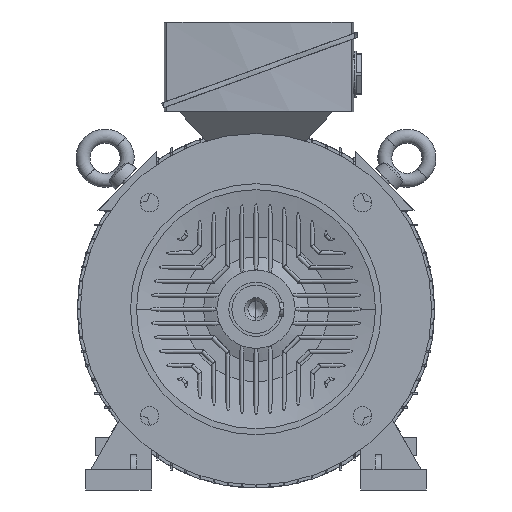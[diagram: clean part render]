
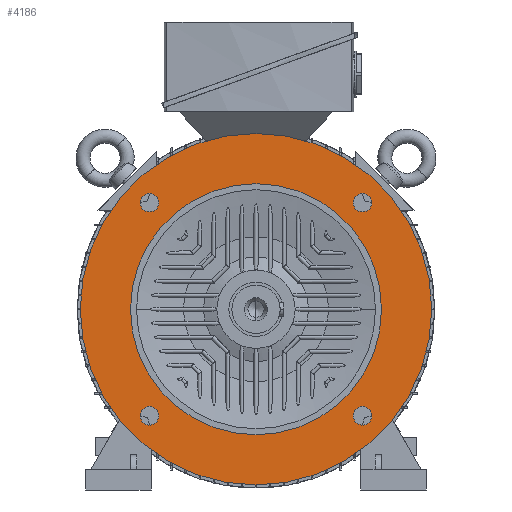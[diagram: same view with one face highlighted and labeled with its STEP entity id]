
A CAD part, left-side view. The second image highlights one B-rep face of the part: STEP entity #4186.
In plain terms, the highlighted planar face has unit normal (-1, 0, 0).
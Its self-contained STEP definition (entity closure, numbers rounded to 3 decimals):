
#4186=ADVANCED_FACE('',(#8448,#8449,#8450,#8451,#8452,#8453),#8454,.T.);
#8448=FACE_BOUND('',#12713,.T.);
#8449=FACE_BOUND('',#12714,.T.);
#8450=FACE_BOUND('',#12715,.T.);
#8451=FACE_BOUND('',#12716,.T.);
#8452=FACE_OUTER_BOUND('',#12717,.T.);
#8453=FACE_BOUND('',#12718,.T.);
#8454=PLANE('',#12719);
#12713=EDGE_LOOP('',(#26011,#26012));
#12714=EDGE_LOOP('',(#26013,#26014));
#12715=EDGE_LOOP('',(#26015,#26016));
#12716=EDGE_LOOP('',(#26017,#26018));
#12717=EDGE_LOOP('',(#26019,#26020));
#12718=EDGE_LOOP('',(#26021,#26022));
#12719=AXIS2_PLACEMENT_3D('',#26023,#26024,#26025);
#26011=ORIENTED_EDGE('',*,*,#31261,.T.);
#26012=ORIENTED_EDGE('',*,*,#26114,.T.);
#26013=ORIENTED_EDGE('',*,*,#31264,.T.);
#26014=ORIENTED_EDGE('',*,*,#26109,.T.);
#26015=ORIENTED_EDGE('',*,*,#31267,.T.);
#26016=ORIENTED_EDGE('',*,*,#26104,.T.);
#26017=ORIENTED_EDGE('',*,*,#31270,.T.);
#26018=ORIENTED_EDGE('',*,*,#26099,.T.);
#26019=ORIENTED_EDGE('',*,*,#26078,.F.);
#26020=ORIENTED_EDGE('',*,*,#31318,.F.);
#26021=ORIENTED_EDGE('',*,*,#26085,.T.);
#26022=ORIENTED_EDGE('',*,*,#31316,.T.);
#26023=CARTESIAN_POINT('',(-78.0,150.0,0.0));
#26024=DIRECTION('',(-1.0,0.0,0.0));
#26025=DIRECTION('',(0.0,-1.0,0.0));
#26078=EDGE_CURVE('',#31364,#31367,#31368,.T.);
#26085=EDGE_CURVE('',#31374,#31378,#31380,.T.);
#26099=EDGE_CURVE('',#31405,#31402,#31406,.T.);
#26104=EDGE_CURVE('',#31414,#31411,#31415,.T.);
#26109=EDGE_CURVE('',#31423,#31420,#31424,.T.);
#26114=EDGE_CURVE('',#31432,#31429,#31433,.T.);
#31261=EDGE_CURVE('',#31429,#31432,#39084,.T.);
#31264=EDGE_CURVE('',#31420,#31423,#39087,.T.);
#31267=EDGE_CURVE('',#31411,#31414,#39090,.T.);
#31270=EDGE_CURVE('',#31402,#31405,#39093,.T.);
#31316=EDGE_CURVE('',#31378,#31374,#39147,.T.);
#31318=EDGE_CURVE('',#31367,#31364,#39149,.T.);
#31364=VERTEX_POINT('',#39381);
#31367=VERTEX_POINT('',#39385);
#31368=CIRCLE('',#39386,175.0);
#31374=VERTEX_POINT('',#39393);
#31378=VERTEX_POINT('',#39398);
#31380=CIRCLE('',#39401,125.0);
#31402=VERTEX_POINT('',#39427);
#31405=VERTEX_POINT('',#39431);
#31406=CIRCLE('',#39432,9.25);
#31411=VERTEX_POINT('',#39438);
#31414=VERTEX_POINT('',#39442);
#31415=CIRCLE('',#39443,9.25);
#31420=VERTEX_POINT('',#39449);
#31423=VERTEX_POINT('',#39453);
#31424=CIRCLE('',#39454,9.25);
#31429=VERTEX_POINT('',#39460);
#31432=VERTEX_POINT('',#39464);
#31433=CIRCLE('',#39465,9.25);
#39084=CIRCLE('',#60367,9.25);
#39087=CIRCLE('',#60370,9.25);
#39090=CIRCLE('',#60373,9.25);
#39093=CIRCLE('',#60376,9.25);
#39147=CIRCLE('',#60450,125.0);
#39149=CIRCLE('',#60452,175.0);
#39381=CARTESIAN_POINT('',(-78.0,175.0,0.0));
#39385=CARTESIAN_POINT('',(-78.0,-175.0,0.));
#39386=AXIS2_PLACEMENT_3D('',#60500,#60501,#60502);
#39393=CARTESIAN_POINT('',(-78.0,125.0,0.0));
#39398=CARTESIAN_POINT('',(-78.0,-125.0,0.));
#39401=AXIS2_PLACEMENT_3D('',#60512,#60513,#60514);
#39427=CARTESIAN_POINT('',(-78.0,-112.607,112.607));
#39431=CARTESIAN_POINT('',(-78.0,-99.525,99.525));
#39432=AXIS2_PLACEMENT_3D('',#60535,#60536,#60537);
#39438=CARTESIAN_POINT('',(-78.0,112.607,112.607));
#39442=CARTESIAN_POINT('',(-78.0,99.525,99.525));
#39443=AXIS2_PLACEMENT_3D('',#60543,#60544,#60545);
#39449=CARTESIAN_POINT('',(-78.0,112.607,-112.607));
#39453=CARTESIAN_POINT('',(-78.0,99.525,-99.525));
#39454=AXIS2_PLACEMENT_3D('',#60551,#60552,#60553);
#39460=CARTESIAN_POINT('',(-78.0,-112.607,-112.607));
#39464=CARTESIAN_POINT('',(-78.0,-99.525,-99.525));
#39465=AXIS2_PLACEMENT_3D('',#60559,#60560,#60561);
#60367=AXIS2_PLACEMENT_3D('',#65811,#65812,#65813);
#60370=AXIS2_PLACEMENT_3D('',#65817,#65818,#65819);
#60373=AXIS2_PLACEMENT_3D('',#65823,#65824,#65825);
#60376=AXIS2_PLACEMENT_3D('',#65829,#65830,#65831);
#60450=AXIS2_PLACEMENT_3D('',#65861,#65862,#65863);
#60452=AXIS2_PLACEMENT_3D('',#65864,#65865,#65866);
#60500=CARTESIAN_POINT('',(-78.0,0.0,0.0));
#60501=DIRECTION('',(1.0,0.0,0.0));
#60502=DIRECTION('',(0.0,1.0,0.0));
#60512=CARTESIAN_POINT('',(-78.0,0.0,0.0));
#60513=DIRECTION('',(1.0,0.0,0.0));
#60514=DIRECTION('',(0.0,1.0,0.0));
#60535=CARTESIAN_POINT('',(-78.0,-106.066,106.066));
#60536=DIRECTION('',(1.0,0.0,-0.0));
#60537=DIRECTION('',(0.0,-0.707,0.707));
#60543=CARTESIAN_POINT('',(-78.0,106.066,106.066));
#60544=DIRECTION('',(1.0,0.0,-0.0));
#60545=DIRECTION('',(0.0,0.707,0.707));
#60551=CARTESIAN_POINT('',(-78.0,106.066,-106.066));
#60552=DIRECTION('',(1.0,-0.0,0.0));
#60553=DIRECTION('',(0.0,0.707,-0.707));
#60559=CARTESIAN_POINT('',(-78.0,-106.066,-106.066));
#60560=DIRECTION('',(1.0,0.0,0.0));
#60561=DIRECTION('',(0.0,-0.707,-0.707));
#65811=CARTESIAN_POINT('',(-78.0,-106.066,-106.066));
#65812=DIRECTION('',(1.0,0.0,0.0));
#65813=DIRECTION('',(0.0,-0.707,-0.707));
#65817=CARTESIAN_POINT('',(-78.0,106.066,-106.066));
#65818=DIRECTION('',(1.0,-0.0,0.0));
#65819=DIRECTION('',(0.0,0.707,-0.707));
#65823=CARTESIAN_POINT('',(-78.0,106.066,106.066));
#65824=DIRECTION('',(1.0,0.0,-0.0));
#65825=DIRECTION('',(0.0,0.707,0.707));
#65829=CARTESIAN_POINT('',(-78.0,-106.066,106.066));
#65830=DIRECTION('',(1.0,0.0,-0.0));
#65831=DIRECTION('',(0.0,-0.707,0.707));
#65861=CARTESIAN_POINT('',(-78.0,0.0,0.0));
#65862=DIRECTION('',(1.0,0.0,0.0));
#65863=DIRECTION('',(0.0,1.0,0.0));
#65864=CARTESIAN_POINT('',(-78.0,0.0,0.0));
#65865=DIRECTION('',(1.0,0.0,0.0));
#65866=DIRECTION('',(0.0,1.0,0.0));
